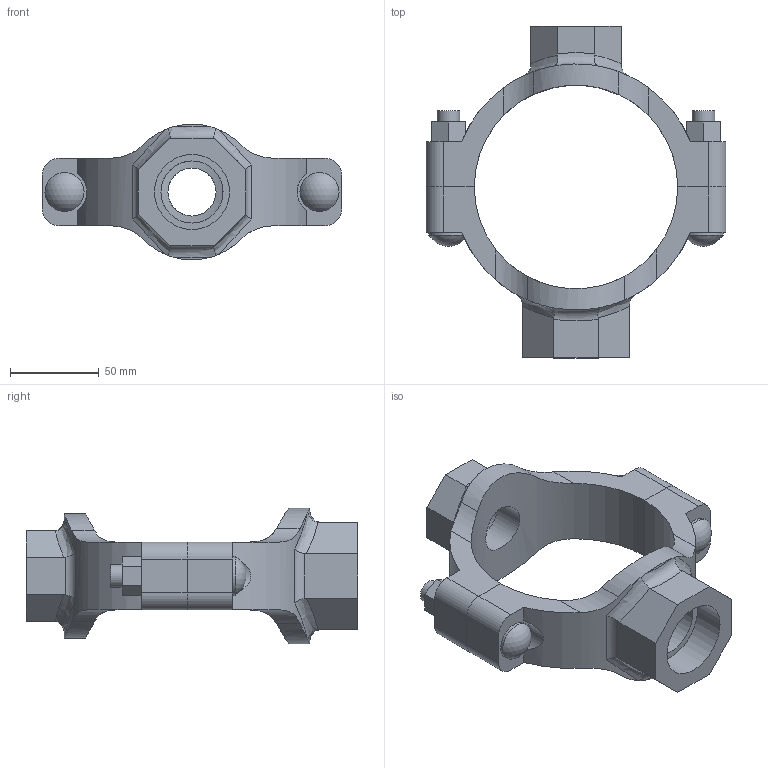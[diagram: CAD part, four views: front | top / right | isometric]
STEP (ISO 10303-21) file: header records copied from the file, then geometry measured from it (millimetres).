
FILE_DESCRIPTION(/* description */ ('VIC MECH-T BRANCH OUTLET CROSS STYLE 920N (THD)','CAx-IF Rec.Pracs.---Representation and Presentation of Product Manufacturing Information (PMI)---4.0---2014-10-13'),/* implementation_level */ '2;1');
FILE_NAME(/* name */ 'C:\Users\Vjadhav\AppData\Roaming\Autodesk\ApplicationPlugins\Back Up\Victaulic_IPS_Mechanical-Cross Outlet_Style 920N (FPT)\Victaulic_IPS_Mechanical-Cross Outlet_04.0x01.0x01.25 (100x25x32).stp',/* time_stamp */ '2020-08-06T18:58:20+05:00',/* author */ ('Vjadhav'),/* organization */ ('Victaulic'),/* preprocessor_version */ 'ST-DEVELOPER v17.2',/* originating_system */ 'Autodesk Inventor 2019',/* authorisation */ '');
FILE_SCHEMA (('AP242_MANAGED_MODEL_BASED_3D_ENGINEERING_MIM_LF { 1 0 10303 442 1 1 4 }'));
Length unit declared in the file: inch
Products named in the file (3): 920NT-04.0x01.0x01.25; 920NT-04.0x01.0; 920NT-04.0x01.25
Assembly tree (2 placements, depth 2):
  920NT-04.0x01.0x01.25
    920NT-04.0x01.0
    920NT-04.0x01.25
Bounding box: 168.4 x 186.44 x 76.18 mm (x, y, z)
Volume: 347907.6 mm3; surface area: 83058.9 mm2
Topology: 2 solids, 2 shells, 135 faces, 362 edges, 244 vertices
Faces by surface type: plane 68, cylinder 53, bspline 8, torus 4, sphere 2
Full cylindrical faces by diameter (mm): 12.7 x4, 21.982 x2, 26.987 x1, 33.401 x1, 34.925 x1, 42.164 x1
Entity records: 5381 total; most frequent: CARTESIAN_POINT 1790, ORIENTED_EDGE 724, DIRECTION 654, EDGE_CURVE 362, VERTEX_POINT 244, AXIS2_PLACEMENT_3D 234, LINE 186, VECTOR 186
